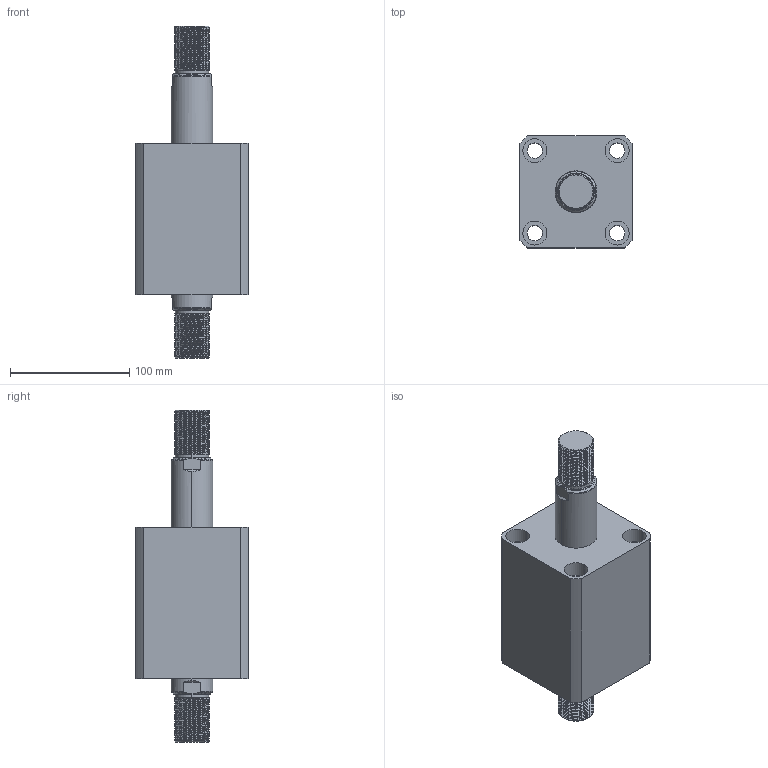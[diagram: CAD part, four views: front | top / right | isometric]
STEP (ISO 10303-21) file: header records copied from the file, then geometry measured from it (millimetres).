
FILE_DESCRIPTION (( 'STEP AP214' ), '1' );
FILE_NAME ('chtb-sw63x45w_asm.STEP', '2018-05-19T03:16:07', ( 'Windows' ), ( 'Microsoft' ), 'SwSTEP 2.0', 'SolidWorks 2015', '' );
FILE_SCHEMA (( 'AUTOMOTIVE_DESIGN' ));
Length unit declared in the file: millimetre
Products named in the file (4): CHTB-SW63X45WHSG; CHTB-SW63X45NBT; CHTB-63QG; chtb-sw63x45w_asm
Assembly tree (3 placements, depth 2):
  chtb-sw63x45w_asm
    CHTB-63QG
    CHTB-SW63X45NBT
    CHTB-SW63X45WHSG
Bounding box: 94 x 94 x 278 mm (x, y, z)
Volume: 1044192.3 mm3; surface area: 171071.5 mm2
Topology: 3 solids, 3 shells, 296 faces, 841 edges, 569 vertices
Faces by surface type: cylinder 206, plane 46, bspline 16, cone 16, torus 12
Entity records: 27380 total; most frequent: CARTESIAN_POINT 20442, ORIENTED_EDGE 1674, DIRECTION 1166, EDGE_CURVE 837, VERTEX_POINT 569, AXIS2_PLACEMENT_3D 453, EDGE_LOOP 334, FACE_OUTER_BOUND 296
